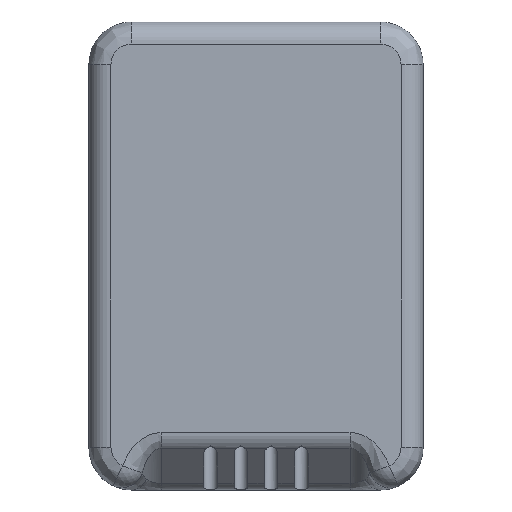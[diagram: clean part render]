
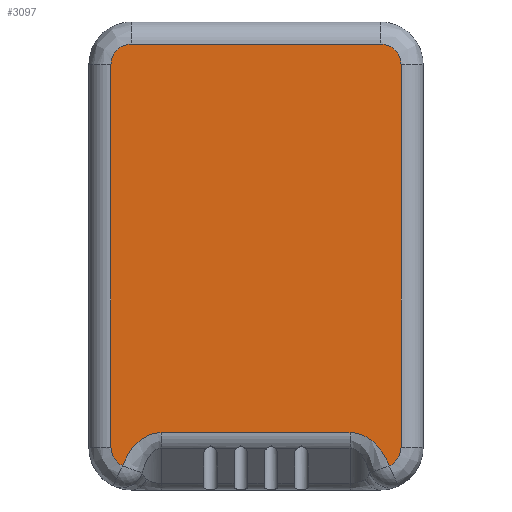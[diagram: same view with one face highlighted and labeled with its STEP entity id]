
A CAD part, top view. The second image highlights one B-rep face of the part: STEP entity #3097.
In plain terms, the highlighted planar face has unit normal (0, 0, 1).
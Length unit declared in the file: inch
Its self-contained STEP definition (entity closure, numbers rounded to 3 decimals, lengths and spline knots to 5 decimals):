
#1029=CARTESIAN_POINT('',(0.7325,1.125,0.47));
#1030=DIRECTION('',(0.,0.,1.));
#1031=DIRECTION('',(1.,0.,0.));
#1032=AXIS2_PLACEMENT_3D('',#1029,#1030,#1031);
#1034=DIRECTION('',(0.,1.,0.));
#1035=VECTOR('',#1034,2.25);
#1036=CARTESIAN_POINT('',(0.8525,-1.125,0.47));
#1037=LINE('',#1036,#1035);
#1038=CARTESIAN_POINT('',(0.7325,-1.125,0.47));
#1039=DIRECTION('',(0.,0.,1.));
#1040=DIRECTION('',(0.415,-0.91,0.));
#1041=AXIS2_PLACEMENT_3D('',#1038,#1039,#1040);
#1043=CARTESIAN_POINT('',(0.5525,-1.03831,
0.47));
#1044=CARTESIAN_POINT('',(0.56324,-1.03831,
0.47));
#1045=CARTESIAN_POINT('',(0.58524,-1.04018,
0.47));
#1046=CARTESIAN_POINT('',(0.61993,-1.04963,
0.47));
#1047=CARTESIAN_POINT('',(0.65603,-1.06718,
0.47));
#1048=CARTESIAN_POINT('',(0.692,-1.09385,
0.47));
#1049=CARTESIAN_POINT('',(0.72615,-1.13002,
0.47));
#1050=CARTESIAN_POINT('',(0.75713,-1.17606,
0.47));
#1051=CARTESIAN_POINT('',(0.77466,-1.21357,
0.47));
#1052=CARTESIAN_POINT('',(0.78236,-1.23415,
0.47));
#1054=DIRECTION('',(1.,0.,0.));
#1055=VECTOR('',#1054,1.11);
#1056=CARTESIAN_POINT('',(-0.5575,-1.03831,
0.47));
#1057=LINE('',#1056,#1055);
#1058=CARTESIAN_POINT('',(-0.78404,-1.23337,
0.47));
#1059=CARTESIAN_POINT('',(-0.77656,-1.21291,
0.47));
#1060=CARTESIAN_POINT('',(-0.75944,-1.1756,
0.47));
#1061=CARTESIAN_POINT('',(-0.72904,-1.12978,
0.47));
#1062=CARTESIAN_POINT('',(-0.69541,-1.09374,
0.47));
#1063=CARTESIAN_POINT('',(-0.65992,-1.06714,
0.47));
#1064=CARTESIAN_POINT('',(-0.6242,-1.04961,
0.47));
#1065=CARTESIAN_POINT('',(-0.58984,-1.04017,
0.47));
#1066=CARTESIAN_POINT('',(-0.5681,-1.03831,
0.47));
#1067=CARTESIAN_POINT('',(-0.5575,-1.03831,
0.47));
#1069=CARTESIAN_POINT('',(-0.7325,-1.125,0.47));
#1070=DIRECTION('',(0.,0.,1.));
#1071=DIRECTION('',(-1.,0.,0.));
#1072=AXIS2_PLACEMENT_3D('',#1069,#1070,#1071);
#1074=DIRECTION('',(0.,-1.,0.));
#1075=VECTOR('',#1074,2.25);
#1076=CARTESIAN_POINT('',(-0.8525,1.125,0.47));
#1077=LINE('',#1076,#1075);
#1078=CARTESIAN_POINT('',(-0.7325,1.125,0.47));
#1079=DIRECTION('',(0.,0.,1.));
#1080=DIRECTION('',(0.,1.,0.));
#1081=AXIS2_PLACEMENT_3D('',#1078,#1079,#1080);
#1083=DIRECTION('',(-1.,0.,0.));
#1084=VECTOR('',#1083,1.465);
#1085=CARTESIAN_POINT('',(0.7325,1.245,0.47));
#1086=LINE('',#1085,#1084);
#1465=CARTESIAN_POINT('',(0.8525,1.125,0.47));
#1466=CARTESIAN_POINT('',(0.7325,1.245,0.47));
#1467=VERTEX_POINT('',#1465);
#1468=VERTEX_POINT('',#1466);
#1473=CARTESIAN_POINT('',(-0.7325,1.245,0.47));
#1474=VERTEX_POINT('',#1473);
#1477=CARTESIAN_POINT('',(-0.8525,1.125,0.47));
#1478=VERTEX_POINT('',#1477);
#1481=CARTESIAN_POINT('',(-0.8525,-1.125,0.47));
#1482=VERTEX_POINT('',#1481);
#1485=CARTESIAN_POINT('',(-0.78404,-1.23337,0.47));
#1486=VERTEX_POINT('',#1485);
#1491=VERTEX_POINT('',#1067);
#1493=CARTESIAN_POINT('',(0.5525,-1.03831,
0.47));
#1494=VERTEX_POINT('',#1493);
#1495=VERTEX_POINT('',#1052);
#1500=CARTESIAN_POINT('',(0.8525,-1.125,0.47));
#1501=VERTEX_POINT('',#1500);
#3072=CARTESIAN_POINT('',(0.,0.,0.47));
#3073=DIRECTION('',(0.,0.,1.));
#3074=DIRECTION('',(1.,0.,0.));
#3075=AXIS2_PLACEMENT_3D('',#3072,#3073,#3074);
#3076=PLANE('',#3075);
#3078=ORIENTED_EDGE('',*,*,#3077,.F.);
#3080=ORIENTED_EDGE('',*,*,#3079,.F.);
#3082=ORIENTED_EDGE('',*,*,#3081,.F.);
#3084=ORIENTED_EDGE('',*,*,#3083,.F.);
#3085=ORIENTED_EDGE('',*,*,#2949,.F.);
#3086=ORIENTED_EDGE('',*,*,#3062,.F.);
#3088=ORIENTED_EDGE('',*,*,#3087,.F.);
#3090=ORIENTED_EDGE('',*,*,#3089,.F.);
#3092=ORIENTED_EDGE('',*,*,#3091,.F.);
#3094=ORIENTED_EDGE('',*,*,#3093,.F.);
#3095=EDGE_LOOP('',(#3078,#3080,#3082,#3084,#3085,#3086,#3088,#3090,#3092,
#3094));
#3096=FACE_OUTER_BOUND('',#3095,.F.);
#1033=CIRCLE('',#1032,0.12);
#1042=CIRCLE('',#1041,0.12);
#1053=B_SPLINE_CURVE_WITH_KNOTS('',3,(#1043,#1044,#1045,#1046,#1047,#1048,#1049,
#1050,#1051,#1052),.UNSPECIFIED.,.F.,.F.,(4,1,1,1,1,1,1,4),(0.,
0.14286,0.28571,0.42857,0.57143,
0.71429,0.85714,1.),.UNSPECIFIED.);
#1068=B_SPLINE_CURVE_WITH_KNOTS('',3,(#1058,#1059,#1060,#1061,#1062,#1063,#1064,
#1065,#1066,#1067),.UNSPECIFIED.,.F.,.F.,(4,1,1,1,1,1,1,4),(0.,
0.14286,0.28571,0.42857,0.57143,
0.71429,0.85714,1.),.UNSPECIFIED.);
#1073=CIRCLE('',#1072,0.12);
#1082=CIRCLE('',#1081,0.12);
#2949=EDGE_CURVE('',#1491,#1494,#1057,.T.);
#3062=EDGE_CURVE('',#1486,#1491,#1068,.T.);
#3077=EDGE_CURVE('',#1467,#1468,#1033,.T.);
#3079=EDGE_CURVE('',#1501,#1467,#1037,.T.);
#3081=EDGE_CURVE('',#1495,#1501,#1042,.T.);
#3083=EDGE_CURVE('',#1494,#1495,#1053,.T.);
#3087=EDGE_CURVE('',#1482,#1486,#1073,.T.);
#3089=EDGE_CURVE('',#1478,#1482,#1077,.T.);
#3091=EDGE_CURVE('',#1474,#1478,#1082,.T.);
#3093=EDGE_CURVE('',#1468,#1474,#1086,.T.);
#3097=ADVANCED_FACE('',(#3096),#3076,.T.);
